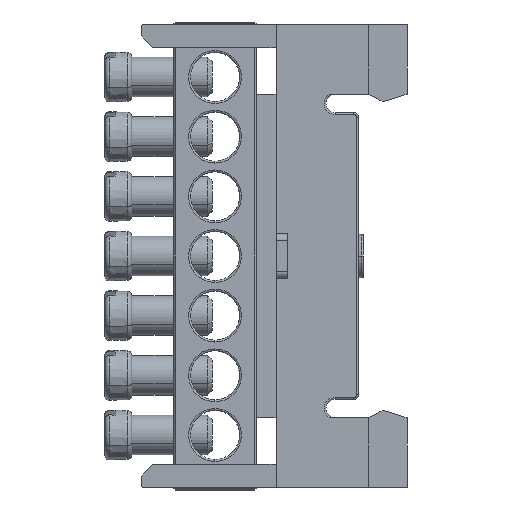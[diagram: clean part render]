
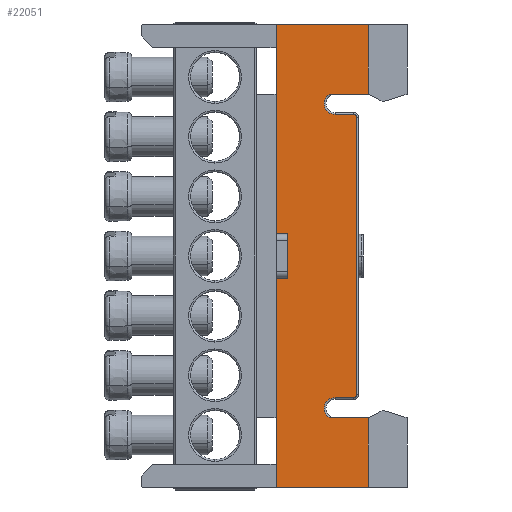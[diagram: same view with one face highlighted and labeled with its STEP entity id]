
A CAD part, left-side view. The second image highlights one B-rep face of the part: STEP entity #22051.
In plain terms, the highlighted planar face has unit normal (-1, 0, 0).
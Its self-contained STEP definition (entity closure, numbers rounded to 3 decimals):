
#6947 = CARTESIAN_POINT ( 'NONE',  ( -8.2, -6.6, 2.4 ) ) ;
#6974 = DIRECTION ( 'NONE',  ( 0., 0., 1. ) ) ;
#6975 = VECTOR ( 'NONE', #6974, 1000. ) ;
#6976 = CARTESIAN_POINT ( 'NONE',  ( -8.2, -6.6, 17.5 ) ) ;
#6977 = LINE ( 'NONE', #6976, #6975 ) ;
#7123 = LINE ( 'NONE', #7125, #7124 ) ;
#7124 = VECTOR ( 'NONE', #7598, 1000. ) ;
#7125 = CARTESIAN_POINT ( 'NONE',  ( -8.2, -7.8, 2.4 ) ) ;
#7205 = CARTESIAN_POINT ( 'NONE',  ( -8.2, -15., 15.3 ) ) ;
#7206 = DIRECTION ( 'NONE',  ( 0., 0., -1. ) ) ;
#7207 = DIRECTION ( 'NONE',  ( -1., 0., 0. ) ) ;
#7208 = CARTESIAN_POINT ( 'NONE',  ( -8.2, -15., 15. ) ) ;
#7209 = AXIS2_PLACEMENT_3D ( 'NONE', #7208, #7207, #7206 ) ;
#7210 = CIRCLE ( 'NONE', #7209, 0.3 ) ;
#7211 = CARTESIAN_POINT ( 'NONE',  ( -8.2, -15.3, 15. ) ) ;
#7212 = DIRECTION ( 'NONE',  ( 0., 0., 1. ) ) ;
#7213 = VECTOR ( 'NONE', #7212, 1000. ) ;
#7214 = CARTESIAN_POINT ( 'NONE',  ( -8.2, -15.3, -17.5 ) ) ;
#7215 = LINE ( 'NONE', #7214, #7213 ) ;
#7284 = DIRECTION ( 'NONE',  ( 0., 1., 0. ) ) ;
#7285 = VECTOR ( 'NONE', #7284, 1000. ) ;
#7286 = CARTESIAN_POINT ( 'NONE',  ( -8.2, -35.302, 25. ) ) ;
#7287 = LINE ( 'NONE', #7286, #7285 ) ;
#7325 = DIRECTION ( 'NONE',  ( 0., 1., 0. ) ) ;
#7326 = VECTOR ( 'NONE', #7325, 1000. ) ;
#7327 = CARTESIAN_POINT ( 'NONE',  ( -8.2, -7.8, -2.4 ) ) ;
#7328 = LINE ( 'NONE', #7327, #7326 ) ;
#7458 = CARTESIAN_POINT ( 'NONE',  ( -8.2, -7.8, 2.4 ) ) ;
#7488 = FACE_OUTER_BOUND ( 'NONE', #22052, .T. ) ;
#7507 = CARTESIAN_POINT ( 'NONE',  ( -8.2, -7.8, -2.4 ) ) ;
#7508 = DIRECTION ( 'NONE',  ( 0., 0., -1. ) ) ;
#7509 = VECTOR ( 'NONE', #7508, 1000. ) ;
#7510 = CARTESIAN_POINT ( 'NONE',  ( -8.2, -7.8, -2.4 ) ) ;
#7511 = LINE ( 'NONE', #7510, #7509 ) ;
#7524 = DIRECTION ( 'NONE',  ( 0., 0., -1. ) ) ;
#7525 = DIRECTION ( 'NONE',  ( 1., 0., 0. ) ) ;
#7526 = CARTESIAN_POINT ( 'NONE',  ( -8.2, -13., 16.5 ) ) ;
#7527 = AXIS2_PLACEMENT_3D ( 'NONE', #7526, #7525, #7524 ) ;
#7528 = CIRCLE ( 'NONE', #7527, 1.2 ) ;
#7529 = CARTESIAN_POINT ( 'NONE',  ( -8.2, -13., 15.3 ) ) ;
#7530 = DIRECTION ( 'NONE',  ( 0., 1., 0. ) ) ;
#7531 = VECTOR ( 'NONE', #7530, 1000. ) ;
#7532 = CARTESIAN_POINT ( 'NONE',  ( -8.2, -15.5, 15.3 ) ) ;
#7533 = LINE ( 'NONE', #7532, #7531 ) ;
#7534 = CARTESIAN_POINT ( 'NONE',  ( -8.2, -13., -15.3 ) ) ;
#7535 = DIRECTION ( 'NONE',  ( 0., 0., -1. ) ) ;
#7536 = DIRECTION ( 'NONE',  ( 1., 0., 0. ) ) ;
#7537 = CARTESIAN_POINT ( 'NONE',  ( -8.2, -13., -16.5 ) ) ;
#7538 = AXIS2_PLACEMENT_3D ( 'NONE', #7537, #7536, #7535 ) ;
#7598 = DIRECTION ( 'NONE',  ( 0., 1., 0. ) ) ;
#7599 = CIRCLE ( 'NONE', #7538, 1.2 ) ;
#7600 = DIRECTION ( 'NONE',  ( 0., 1., 0. ) ) ;
#7601 = VECTOR ( 'NONE', #7600, 1000. ) ;
#7602 = CARTESIAN_POINT ( 'NONE',  ( -8.2, -35.302, -17.5 ) ) ;
#7603 = LINE ( 'NONE', #7602, #7601 ) ;
#7608 = DIRECTION ( 'NONE',  ( 0., 0., -1. ) ) ;
#7609 = DIRECTION ( 'NONE',  ( 1., 0., 0. ) ) ;
#7610 = CARTESIAN_POINT ( 'NONE',  ( -8.2, -35.302, 17.5 ) ) ;
#7611 = AXIS2_PLACEMENT_3D ( 'NONE', #7610, #7609, #7608 ) ;
#7612 = PLANE ( 'NONE',  #7611 ) ;
#7711 = CARTESIAN_POINT ( 'NONE',  ( -8.2, -15.3, -15. ) ) ;
#7712 = DIRECTION ( 'NONE',  ( 0., 0., -1. ) ) ;
#7713 = DIRECTION ( 'NONE',  ( -1., 0., 0. ) ) ;
#7714 = CARTESIAN_POINT ( 'NONE',  ( -8.2, -15., -15. ) ) ;
#7715 = AXIS2_PLACEMENT_3D ( 'NONE', #7714, #7713, #7712 ) ;
#7716 = CIRCLE ( 'NONE', #7715, 0.3 ) ;
#7746 = DIRECTION ( 'NONE',  ( 0., 1., 0. ) ) ;
#7747 = VECTOR ( 'NONE', #7746, 1000. ) ;
#7748 = CARTESIAN_POINT ( 'NONE',  ( -8.2, -35.302, -25. ) ) ;
#7749 = LINE ( 'NONE', #7748, #7747 ) ;
#7760 = CARTESIAN_POINT ( 'NONE',  ( -8.2, -15., -15.3 ) ) ;
#7761 = DIRECTION ( 'NONE',  ( 0., -1., 0. ) ) ;
#7762 = VECTOR ( 'NONE', #7761, 1000. ) ;
#7763 = CARTESIAN_POINT ( 'NONE',  ( -8.2, -15.5, -15.3 ) ) ;
#7764 = LINE ( 'NONE', #7763, #7762 ) ;
#7765 = CARTESIAN_POINT ( 'NONE',  ( -8.2, -12.337, -17.5 ) ) ;
#7766 = CARTESIAN_POINT ( 'NONE',  ( -8.2, -18.567, -17.5 ) ) ;
#7767 = DIRECTION ( 'NONE',  ( 0., 0., -1. ) ) ;
#7768 = VECTOR ( 'NONE', #7767, 1000. ) ;
#7769 = CARTESIAN_POINT ( 'NONE',  ( -8.2, -18.567, -17.5 ) ) ;
#7770 = LINE ( 'NONE', #7769, #7768 ) ;
#7771 = CARTESIAN_POINT ( 'NONE',  ( -8.2, -18.567, -25. ) ) ;
#11723 = CARTESIAN_POINT ( 'NONE',  ( -8.2, -6.6, -25. ) ) ;
#11772 = CARTESIAN_POINT ( 'NONE',  ( -8.2, -12.337, 17.5 ) ) ;
#11773 = DIRECTION ( 'NONE',  ( 0., 1., 0. ) ) ;
#11774 = VECTOR ( 'NONE', #11773, 1000. ) ;
#11775 = CARTESIAN_POINT ( 'NONE',  ( -8.2, -35.302, 17.5 ) ) ;
#11776 = LINE ( 'NONE', #11775, #11774 ) ;
#11894 = CARTESIAN_POINT ( 'NONE',  ( -8.2, -6.6, 25. ) ) ;
#12546 = CARTESIAN_POINT ( 'NONE',  ( -8.2, -18.567, 17.5 ) ) ;
#12547 = DIRECTION ( 'NONE',  ( 0., 0., 1. ) ) ;
#12548 = VECTOR ( 'NONE', #12547, 1000. ) ;
#12549 = CARTESIAN_POINT ( 'NONE',  ( -8.2, -18.567, 17.5 ) ) ;
#12550 = LINE ( 'NONE', #12549, #12548 ) ;
#12551 = CARTESIAN_POINT ( 'NONE',  ( -8.2, -18.567, 25. ) ) ;
#13476 = CARTESIAN_POINT ( 'NONE',  ( -8.2, -6.6, -2.4 ) ) ;
#13477 = DIRECTION ( 'NONE',  ( 0., 0., -1. ) ) ;
#13478 = VECTOR ( 'NONE', #13477, 1000. ) ;
#13479 = CARTESIAN_POINT ( 'NONE',  ( -8.2, -6.6, -17.5 ) ) ;
#13480 = LINE ( 'NONE', #13479, #13478 ) ;
#21768 = EDGE_CURVE ( 'NONE', #21782, #23533, #6977, .T. ) ;
#21782 = VERTEX_POINT ( 'NONE', #6947 ) ;
#21959 = EDGE_CURVE ( 'NONE', #23714, #23533, #7287, .T. ) ;
#21995 = EDGE_CURVE ( 'NONE', #22153, #21996, #7215, .T. ) ;
#21996 = VERTEX_POINT ( 'NONE', #7211 ) ;
#21997 = ORIENTED_EDGE ( 'NONE', *, *, #21998, .T. ) ;
#21998 = EDGE_CURVE ( 'NONE', #21996, #21999, #7210, .T. ) ;
#21999 = VERTEX_POINT ( 'NONE', #7205 ) ;
#22003 = ORIENTED_EDGE ( 'NONE', *, *, #22004, .T. ) ;
#22004 = EDGE_CURVE ( 'NONE', #22076, #24055, #7328, .T. ) ;
#22045 = EDGE_CURVE ( 'NONE', #22046, #21782, #7123, .T. ) ;
#22046 = VERTEX_POINT ( 'NONE', #7458 ) ;
#22047 = ORIENTED_EDGE ( 'NONE', *, *, #22075, .T. ) ;
#22051 = ADVANCED_FACE ( 'NONE', ( #7488 ), #7612, .F. ) ;
#22052 = EDGE_LOOP ( 'NONE', ( #22161, #22066, #22067, #22047, #22003, #22140, #22141, #22144, #22055, #22057, #22148, #22151, #22154, #21997, #22060, #22063, #22078, #22079 ) ) ;
#22055 = ORIENTED_EDGE ( 'NONE', *, *, #22056, .T. ) ;
#22056 = EDGE_CURVE ( 'NONE', #22146, #22147, #7603, .T. ) ;
#22057 = ORIENTED_EDGE ( 'NONE', *, *, #22058, .T. ) ;
#22058 = EDGE_CURVE ( 'NONE', #22147, #22059, #7599, .T. ) ;
#22059 = VERTEX_POINT ( 'NONE', #7534 ) ;
#22060 = ORIENTED_EDGE ( 'NONE', *, *, #22061, .T. ) ;
#22061 = EDGE_CURVE ( 'NONE', #21999, #22062, #7533, .T. ) ;
#22062 = VERTEX_POINT ( 'NONE', #7529 ) ;
#22063 = ORIENTED_EDGE ( 'NONE', *, *, #22064, .T. ) ;
#22064 = EDGE_CURVE ( 'NONE', #22062, #23551, #7528, .T. ) ;
#22066 = ORIENTED_EDGE ( 'NONE', *, *, #21768, .F. ) ;
#22067 = ORIENTED_EDGE ( 'NONE', *, *, #22045, .F. ) ;
#22075 = EDGE_CURVE ( 'NONE', #22046, #22076, #7511, .T. ) ;
#22076 = VERTEX_POINT ( 'NONE', #7507 ) ;
#22078 = ORIENTED_EDGE ( 'NONE', *, *, #23550, .F. ) ;
#22079 = ORIENTED_EDGE ( 'NONE', *, *, #23716, .T. ) ;
#22140 = ORIENTED_EDGE ( 'NONE', *, *, #24054, .T. ) ;
#22141 = ORIENTED_EDGE ( 'NONE', *, *, #22142, .F. ) ;
#22142 = EDGE_CURVE ( 'NONE', #22143, #23506, #7749, .T. ) ;
#22143 = VERTEX_POINT ( 'NONE', #7771 ) ;
#22144 = ORIENTED_EDGE ( 'NONE', *, *, #22145, .F. ) ;
#22145 = EDGE_CURVE ( 'NONE', #22146, #22143, #7770, .T. ) ;
#22146 = VERTEX_POINT ( 'NONE', #7766 ) ;
#22147 = VERTEX_POINT ( 'NONE', #7765 ) ;
#22148 = ORIENTED_EDGE ( 'NONE', *, *, #22149, .T. ) ;
#22149 = EDGE_CURVE ( 'NONE', #22059, #22150, #7764, .T. ) ;
#22150 = VERTEX_POINT ( 'NONE', #7760 ) ;
#22151 = ORIENTED_EDGE ( 'NONE', *, *, #22152, .T. ) ;
#22152 = EDGE_CURVE ( 'NONE', #22150, #22153, #7716, .T. ) ;
#22153 = VERTEX_POINT ( 'NONE', #7711 ) ;
#22154 = ORIENTED_EDGE ( 'NONE', *, *, #21995, .T. ) ;
#22161 = ORIENTED_EDGE ( 'NONE', *, *, #21959, .T. ) ;
#23506 = VERTEX_POINT ( 'NONE', #11723 ) ;
#23533 = VERTEX_POINT ( 'NONE', #11894 ) ;
#23550 = EDGE_CURVE ( 'NONE', #23717, #23551, #11776, .T. ) ;
#23551 = VERTEX_POINT ( 'NONE', #11772 ) ;
#23714 = VERTEX_POINT ( 'NONE', #12551 ) ;
#23716 = EDGE_CURVE ( 'NONE', #23717, #23714, #12550, .T. ) ;
#23717 = VERTEX_POINT ( 'NONE', #12546 ) ;
#24054 = EDGE_CURVE ( 'NONE', #24055, #23506, #13480, .T. ) ;
#24055 = VERTEX_POINT ( 'NONE', #13476 ) ;
